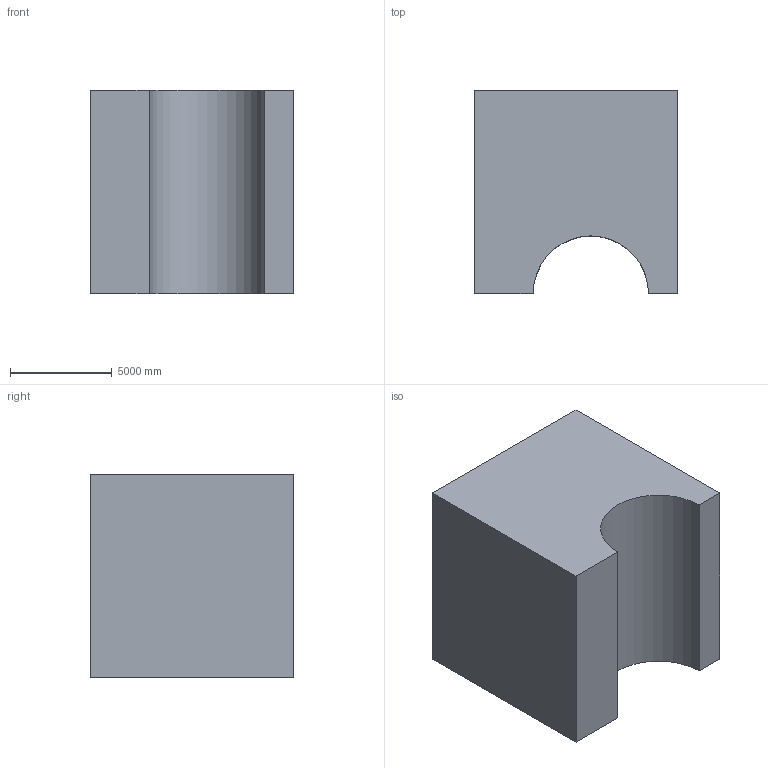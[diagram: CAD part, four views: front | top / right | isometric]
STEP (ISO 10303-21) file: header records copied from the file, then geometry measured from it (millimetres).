
FILE_DESCRIPTION (( 'STEP AP203' ), '1' );
FILE_NAME ('71.STEP', '2022-07-28T13:32:44', ( 'user' ), ( '' ), 'SwSTEP 2.0', 'SolidWorks 2021', '' );
FILE_SCHEMA (( 'CONFIG_CONTROL_DESIGN' ));
Length unit declared in the file: centimetre
Products named in the file (1): 71
Bounding box: 10000 x 10000 x 10000 mm (x, y, z)
Volume: 786733065895 mm3; surface area: 585225756.3 mm2
Topology: 1 solids, 1 shells, 10 faces, 24 edges, 16 vertices
Faces by surface type: plane 9, cylinder 1
Entity records: 367 total; most frequent: CARTESIAN_POINT 51, ORIENTED_EDGE 48, DIRECTION 48, EDGE_CURVE 24, VECTOR 22, LINE 22, VERTEX_POINT 16, AXIS2_PLACEMENT_3D 13
